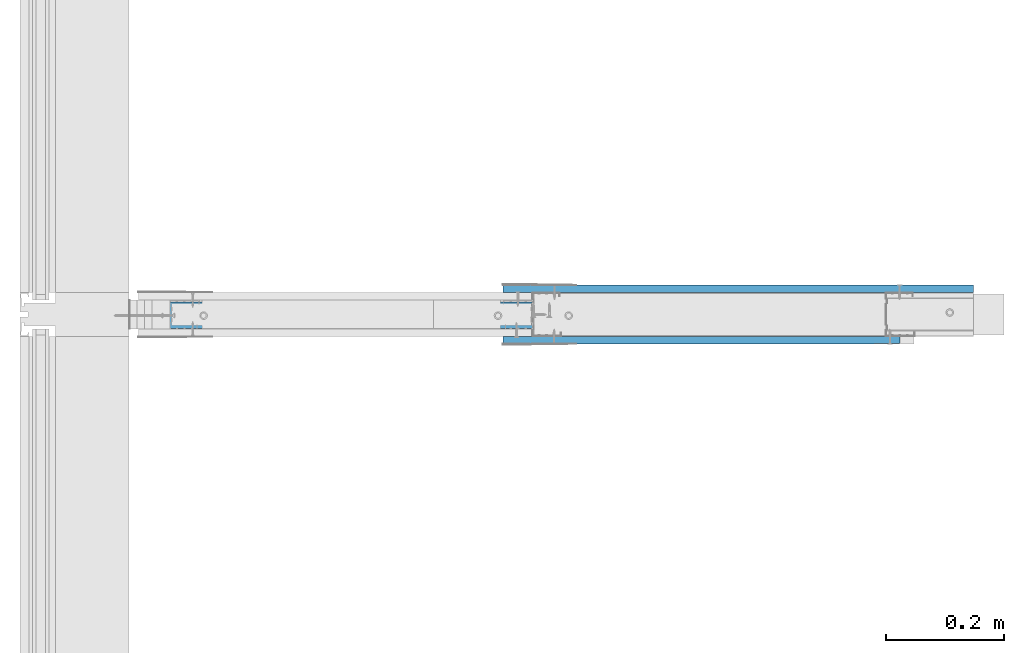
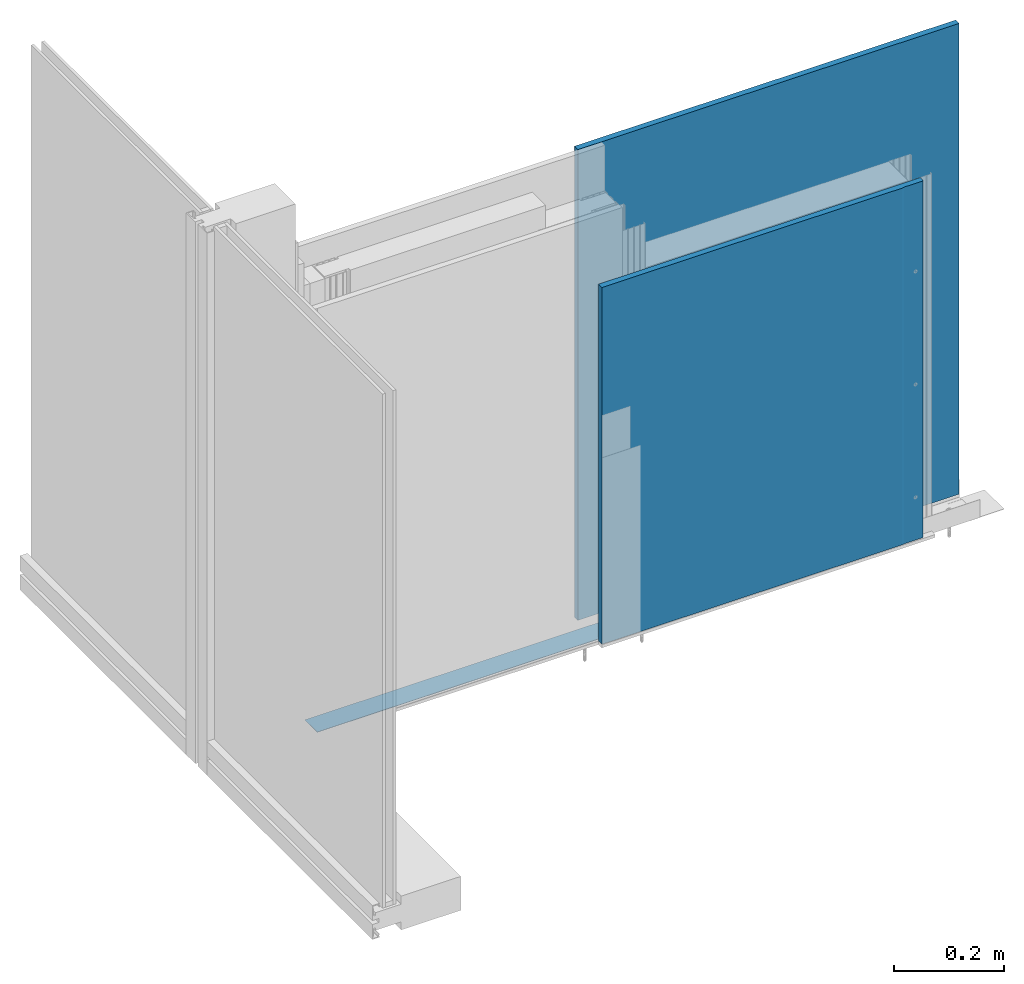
# One storey, part 2 of 42: 3 walls.
"""IFC2X3 building model written with IfcOpenShell, lengths in millimetres."""

from ifc_helpers import new_model, entity, si_unit, converted_unit, direction, frame, origin, origin_with_axes, place, context, project, spatial, faceted_brep, element, save


model = new_model("IFC2X3")

# Units and contexts
model_context = context("Model", 3, precision=1e-05, world=origin(), true_north=direction((0.0, 1.0, 0.0)))
ifc_project = project(units=[si_unit("LENGTHUNIT", "METRE", prefix="MILLI"), si_unit("AREAUNIT", "SQUARE_METRE"), si_unit("VOLUMEUNIT", "CUBIC_METRE"), converted_unit("PLANEANGLEUNIT", "DEGREE", entity("IfcPlaneAngleMeasure", 0.01745), si_unit("PLANEANGLEUNIT", "RADIAN"), dimensions=[0, 0, 0, 0, 0, 0, 0]), si_unit("SOLIDANGLEUNIT", "STERADIAN"), si_unit("MASSUNIT", "GRAM"), si_unit("TIMEUNIT", "SECOND"), si_unit("THERMODYNAMICTEMPERATUREUNIT", "DEGREE_CELSIUS"), si_unit("LUMINOUSINTENSITYUNIT", "LUMEN")], contexts=[model_context])

# Site, building, storey
site_placement = place(None, origin_with_axes())
site = spatial("IfcSite", under=ifc_project, at=site_placement, Name="Default Site", CompositionType="ELEMENT")
building_placement = place(site_placement, origin_with_axes())
building = spatial("IfcBuilding", under=site, at=building_placement, Name="Default Building", CompositionType="ELEMENT")
storey_placement = place(building_placement, origin_with_axes())
storey = spatial("IfcBuildingStorey", under=building, at=storey_placement, Name="Default Building Storey", CompositionType="ELEMENT", Elevation=0.0)

# Walls
wall_1_placement = place(storey_placement, frame((2890.720525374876, -1439.076434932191, 8.24899725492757), z_axis=(7.548498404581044e-14, 6.858158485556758e-13, 1.0), x_axis=(1.0, 3.27399065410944e-16, -7.692534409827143e-14)))
element("IfcWall", 1, at=wall_1_placement, inside=storey, Name="Taśma uszczelniająca piankowa RIGIPS", context=model_context, shape_type="Brep", body=[
    faceted_brep([(-526.5664804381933, 3477.783223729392, -5.000000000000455), (-526.5664804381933, 3477.862841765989, -6.006369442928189), (-526.5664804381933, 3432.691889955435, -5.864971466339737), (-526.5664804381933, 3432.783223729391, -5.000000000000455), (104.4586269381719, 3477.862841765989, -6.006369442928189), (104.4586269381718, 3477.783223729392, -5.000000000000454), (104.4586269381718, 3432.783223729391, -5.000000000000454), (104.4586269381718, 3432.691889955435, -5.864971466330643)], [[[0, 1, 2, 3]], [[4, 5, 6, 7]], [[5, 0, 3, 6]], [[6, 3, 2, 7]], [[7, 2, 1, 4]], [[4, 1, 0, 5]]]),
])
wall_2_placement = place(storey_placement, frame((2267.131614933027, 5332.029167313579, 10.38402578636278), z_axis=(0.0, 0.0, 1.0), x_axis=(-1.0, 0.0, 0.0)))
element("IfcWall", 2, at=wall_2_placement, inside=storey, Name="Płyta gipsowo-kartonowa RIGIPS PRO (4PRO™)", context=model_context, shape_type="Brep", body=[
    faceted_brep([(-678.0475373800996, 3277.283223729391, 1041.999999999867), (-678.0475373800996, 3264.783223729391, 1041.999999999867), (-678.0475373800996, 3264.783223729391, -0.3856074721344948), (-678.0475373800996, 3277.283223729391, -0.3856074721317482), (-1476.747148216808, 3264.783223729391, -0.3856074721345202), (-1476.747148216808, 3264.783223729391, 1041.999999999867), (-1476.747148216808, 3277.283223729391, 1041.999999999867), (-1476.747148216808, 3277.283223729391, -0.3856074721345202)], [[[0, 1, 2, 3]], [[4, 2, 1, 5]], [[5, 1, 0, 6]], [[0, 3, 7, 6]], [[7, 3, 2, 4]], [[5, 6, 7, 4]]]),
])
wall_3_placement = place(storey_placement, frame((3619.079614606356, 1979.745943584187, 1160.18560747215), z_axis=(0.0, 0.0, 1.0), x_axis=(-1.0, -6.389333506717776e-13, 0.0)))
element("IfcWall", 3, at=wall_3_placement, inside=storey, Name="Płyta gipsowo-kartonowa RIGIPS PRO (4PRO™)", context=model_context, shape_type="Brep", body=[
    faceted_brep([(673.9004622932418, 12.50000000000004, -359.9982163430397), (673.9004622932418, 0.0, -359.9982163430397), (673.9004622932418, 0.0, -1150.00158168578), (673.9004622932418, 12.50000000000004, -1150.00158168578), (44.99999999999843, 12.5000000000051, -1150.001581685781), (44.99999999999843, 12.5000000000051, -359.9982163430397), (40.99999999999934, 11.50000000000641, -359.9982163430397), (40.99999999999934, 11.50000000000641, -1150.001581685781), (0.9999999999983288, 11.5000000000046, -359.9982163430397), (0.9999999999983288, 11.5000000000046, -1150.001581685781), (0.7411809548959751, 11.46592582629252, -359.9982163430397), (0.7411809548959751, 11.46592582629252, -1150.001581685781), (0.4999999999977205, 11.3660254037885, -359.9982163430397), (0.4999999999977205, 11.3660254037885, -1150.001581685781), (0.292893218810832, 11.20710678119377, -359.9982163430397), (0.292893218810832, 11.20710678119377, -1150.001581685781), (0.1339745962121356, 11.00000000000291, -359.9982163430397), (0.1339745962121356, 11.00000000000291, -1150.001581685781), (0.0340741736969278, 10.7588190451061, -359.9982163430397), (0.0340741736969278, 10.7588190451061, -1150.001581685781), (-2.165734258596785e-12, 10.50000000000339, -359.9982163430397), (-2.165734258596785e-12, 10.50000000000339, -1150.001581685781), (0.0, 0.0, -359.9982163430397), (0.0, 0.0, -1150.001581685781)], [[[0, 1, 2, 3]], [[0, 3, 4, 5]], [[6, 5, 4, 7]], [[8, 6, 7, 9]], [[10, 8, 9, 11]], [[12, 10, 11, 13]], [[14, 12, 13, 15]], [[16, 14, 15, 17]], [[18, 16, 17, 19]], [[20, 18, 19, 21]], [[22, 20, 21, 23]], [[23, 2, 1, 22]], [[4, 3, 2, 23, 21, 19, 17, 15, 13, 11, 9, 7]], [[22, 1, 0, 5, 6, 8, 10, 12, 14, 16, 18, 20]]]),
])

save(model, "model.ifc")
